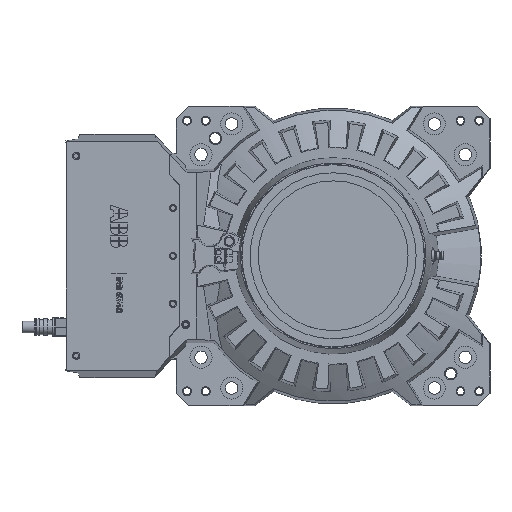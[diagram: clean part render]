
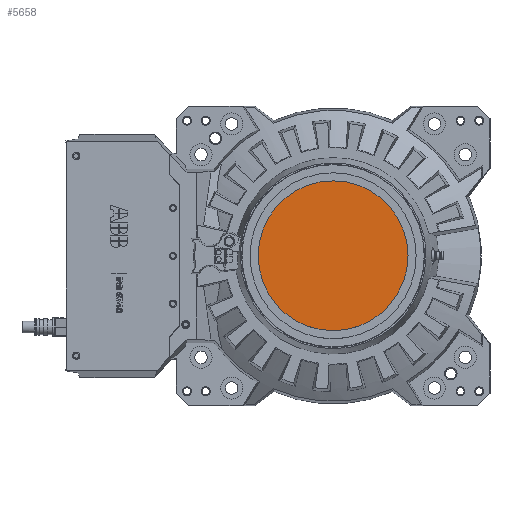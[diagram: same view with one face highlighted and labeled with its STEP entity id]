
A CAD part, top view. The second image highlights one B-rep face of the part: STEP entity #5658.
In plain terms, the highlighted planar face has unit normal (0, 0, 1).
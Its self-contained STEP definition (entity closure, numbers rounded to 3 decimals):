
#5658 = ADVANCED_FACE ( 'NONE', ( #22201 ), #11668, .T. ) ;
#8642 = CARTESIAN_POINT ( 'NONE',  ( -180., 0., 374. ) ) ;
#10262 = DIRECTION ( 'NONE',  ( 0., 0., -1. ) ) ;
#10948 = DIRECTION ( 'NONE',  ( -1., 0., 0. ) ) ;
#11668 = PLANE ( 'NONE',  #25016 ) ;
#11691 = VERTEX_POINT ( 'NONE', #8642 ) ;
#14893 = EDGE_CURVE ( 'NONE', #11691, #11691, #21086, .T. ) ;
#19400 = CARTESIAN_POINT ( 'NONE',  ( -180., 0., 374. ) ) ;
#21086 = CIRCLE ( 'NONE', #41243, 180. ) ;
#22201 = FACE_OUTER_BOUND ( 'NONE', #44429, .T. ) ;
#24140 = ORIENTED_EDGE ( 'NONE', *, *, #14893, .F. ) ;
#25016 = AXIS2_PLACEMENT_3D ( 'NONE', #19400, #29428, #25943 ) ;
#25943 = DIRECTION ( 'NONE',  ( 1., 0., 0. ) ) ;
#28036 = CARTESIAN_POINT ( 'NONE',  ( 0., 0., 374. ) ) ;
#29428 = DIRECTION ( 'NONE',  ( 0., 0., 1. ) ) ;
#41243 = AXIS2_PLACEMENT_3D ( 'NONE', #28036, #10262, #10948 ) ;
#44429 = EDGE_LOOP ( 'NONE', ( #24140 ) ) ;
